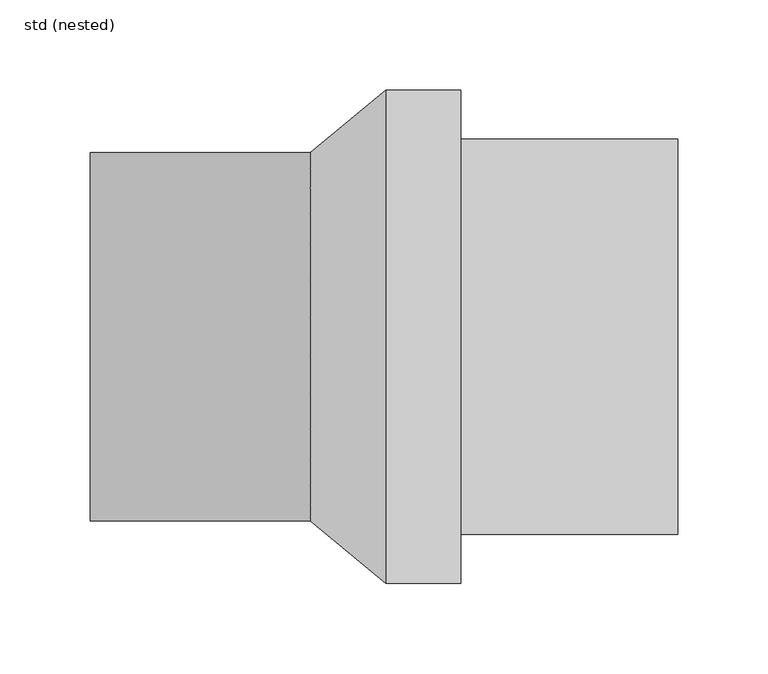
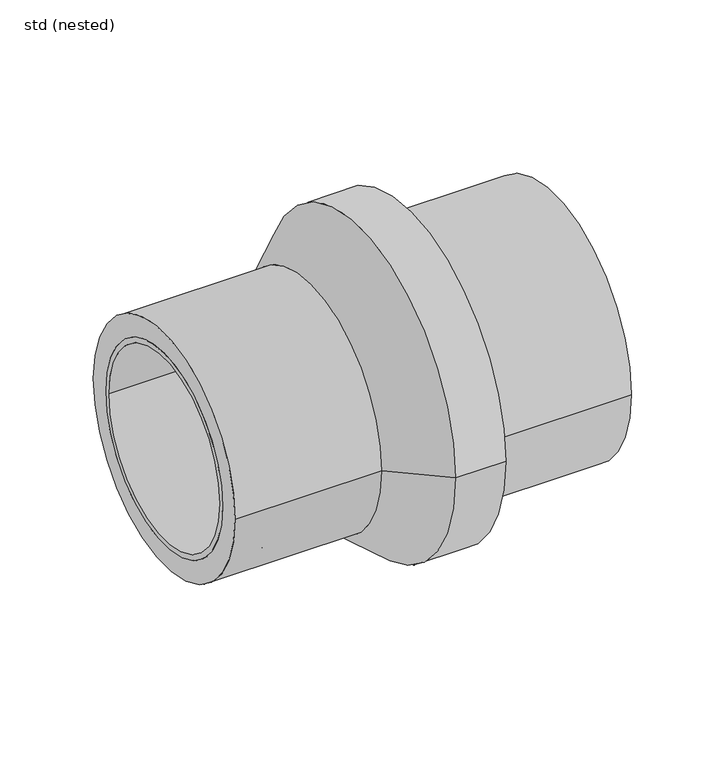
"""IFC4 building model written with IfcOpenShell, lengths in millimetres: pipe fitting geometry, ZZZ_do not use_PIF_ST_WPB_GM-X compound pipe reducer_ACO : std (nested)."""

from ifc_helpers import new_model, si_unit, point, frame, origin, origin_2d, place, context, project, spatial, polyline, circle_curve, trimmed, segment, composite_curve, outline, extrude, source, transform, mapped, element, save
from ifc_brep_helpers import plane_surface, cylinder_surface, revolved_surface, advanced_brep


def std_nested_7e47c5b0(model_context):
    return source(origin(), model_context, "Body", "SolidModel", [
        advanced_brep(
        [(-315.5, 90.5, 0.0), (-280.0, 90.5, 0.0), (-280.0, -90.5, 0.0), (-315.5, -90.5, 0.0), (-325.0, -84.0, 0.0), (-325.0, 84.0, 0.0), (-325.0, 79.5, 0.0), (-325.0, -79.5, 0.0), (-245.0, -84.0, 0.0), (-245.0, 84.0, 0.0), (-245.0, -79.5, 0.0), (-245.0, 79.5, 0.0), (-280.0, -84.0, 0.0), (-280.0, 84.0, 0.0), (-315.5, 84.0, 0.0), (-315.5, -84.0, 0.0)],
        [
            (0, 1),
            (1, 2, circle_curve(frame((-280.0, 0.0, 0.0), z_axis=(-1.0, 0.0, 0.0), x_axis=(0.0, 1.0, 0.0)), 90.5)),
            (2, 3),
            (3, 0, circle_curve(frame((-315.5, 0.0, 0.0), z_axis=(1.0, 0.0, 0.0), x_axis=(0.0, 1.0, 0.0)), 90.5)),
            (2, 1, circle_curve(frame((-280.0, 0.0, 0.0), z_axis=(-1.0, 0.0, 0.0), x_axis=(0.0, 1.0, 0.0)), 90.5)),
            (0, 3, circle_curve(frame((-315.5, 0.0, 0.0), z_axis=(1.0, 0.0, 0.0), x_axis=(0.0, 1.0, 0.0)), 90.5)),
            (4, 5, circle_curve(frame((-325.0, 0.0, 0.0), z_axis=(-1.0, 0.0, 0.0), x_axis=(0.0, 1.0, 0.0)), 84.0)),
            (5, 4, circle_curve(frame((-325.0, 0.0, 0.0), z_axis=(-1.0, 0.0, 0.0), x_axis=(0.0, 1.0, 0.0)), 84.0)),
            (6, 7, circle_curve(frame((-325.0, 0.0, 0.0), z_axis=(1.0, 0.0, 0.0), x_axis=(0.0, 1.0, 0.0)), 79.5)),
            (7, 6, circle_curve(frame((-325.0, 0.0, 0.0), z_axis=(1.0, 0.0, 0.0), x_axis=(0.0, 1.0, 0.0)), 79.5)),
            (8, 9, circle_curve(frame((-245.0, 0.0, 0.0), z_axis=(1.0, 0.0, 0.0), x_axis=(0.0, 1.0, 0.0)), 84.0)),
            (9, 8, circle_curve(frame((-245.0, 0.0, 0.0), z_axis=(1.0, 0.0, 0.0), x_axis=(0.0, 1.0, 0.0)), 84.0)),
            (10, 11, circle_curve(frame((-245.0, 0.0, 0.0), z_axis=(-1.0, 0.0, 0.0), x_axis=(0.0, 1.0, 0.0)), 79.5)),
            (11, 10, circle_curve(frame((-245.0, 0.0, 0.0), z_axis=(-1.0, 0.0, 0.0), x_axis=(0.0, 1.0, 0.0)), 79.5)),
            (8, 12),
            (12, 13, circle_curve(frame((-280.0, 0.0, 0.0), z_axis=(1.0, 0.0, 0.0), x_axis=(0.0, 1.0, 0.0)), 84.0)),
            (13, 9),
            (5, 14),
            (14, 15, circle_curve(frame((-315.5, 0.0, 0.0), z_axis=(-1.0, 0.0, 0.0), x_axis=(0.0, 1.0, 0.0)), 84.0)),
            (15, 4),
            (15, 14, circle_curve(frame((-315.5, 0.0, 0.0), z_axis=(-1.0, 0.0, 0.0), x_axis=(0.0, 1.0, 0.0)), 84.0)),
            (13, 12, circle_curve(frame((-280.0, 0.0, 0.0), z_axis=(1.0, 0.0, 0.0), x_axis=(0.0, 1.0, 0.0)), 84.0)),
            (7, 10),
            (11, 6),
        ],
        [
            cylinder_surface(frame((-280.0, 0.0, 0.0), z_axis=(-1.0, 0.0, 0.0), x_axis=(0.0, 1.0, 0.0)), 90.5),
            plane_surface(frame((-325.0, 84.0, 0.0), z_axis=(-1.0, 0.0, 0.0), x_axis=(0.0, 0.0, 1.0))),
            plane_surface(frame((-245.0, 84.0, 0.0), z_axis=(1.0, 0.0, 0.0), x_axis=(0.0, 0.0, -1.0))),
            cylinder_surface(frame((-245.0, 0.0, 0.0), z_axis=(-1.0, 0.0, 0.0), x_axis=(0.0, 1.0, 0.0)), 84.0),
            revolved_surface(polyline([(-325.0, 79.5, 0.0), (-245.0, 79.5, 0.0)]), (-245.0, 0.0, 0.0), (-1.0, 0.0, 0.0)),
            plane_surface(frame((-315.5, 90.5, 0.0), z_axis=(-1.0, 0.0, 0.0), x_axis=(0.0, 0.0, 1.0))),
            plane_surface(frame((-280.0, 90.5, 0.0), z_axis=(1.0, 0.0, 0.0), x_axis=(0.0, 0.0, -1.0))),
        ],
        [
            (0, [[1, 2, 3, 4]]),
            (0, [[-3, 5, -1, 6]]),
            (1, [[7, 8], [9, 10]]),
            (2, [[11, 12], [13, 14]]),
            (3, [[15, 16, 17, -11]]),
            (3, [[18, 19, 20, -8]]),
            (3, [[-20, 21, -18, -7]]),
            (3, [[-17, 22, -15, -12]]),
            (4, [[-10, 23, -14, 24]]),
            (4, [[-13, -23, -9, -24]]),
            (5, [[-6, -4], [-21, -19]]),
            (6, [[-2, -5], [-22, -16]]),
        ],
    ),
        advanced_brep(
        [(-325.0, 102.0, 0.0), (-325.0, -102.0, 0.0), (-325.0, -84.0, 0.0), (-325.0, 84.0, 0.0), (-203.3333333, -102.0, 0.0), (-203.3333333, 102.0, 0.0), (-245.0, 84.0, 0.0), (-245.0, -84.0, 0.0), (-161.6666667, 136.5, 0.0), (-161.6666667, -136.5, 0.0), (-120.0, -136.5, 0.0), (-120.0, 136.5, 0.0)],
        [
            (0, 1, circle_curve(frame((-325.0, 0.0, 0.0), z_axis=(-1.0, 0.0, 0.0), x_axis=(0.0, -1.0, 0.0)), 102.0)),
            (1, 0, circle_curve(frame((-325.0, 0.0, 0.0), z_axis=(-1.0, 0.0, 0.0), x_axis=(0.0, -1.0, 0.0)), 102.0)),
            (2, 3, circle_curve(frame((-325.0, 0.0, 0.0), z_axis=(1.0, 0.0, 0.0), x_axis=(0.0, -1.0, 0.0)), 84.0)),
            (3, 2, circle_curve(frame((-325.0, 0.0, 0.0), z_axis=(1.0, 0.0, 0.0), x_axis=(0.0, -1.0, 0.0)), 84.0)),
            (1, 4),
            (4, 5, circle_curve(frame((-203.3333333, 0.0, 0.0), z_axis=(-1.0, 0.0, 0.0), x_axis=(0.0, -1.0, 0.0)), 102.0)),
            (5, 0),
            (5, 4, circle_curve(frame((-203.3333333, 0.0, 0.0), z_axis=(-1.0, 0.0, 0.0), x_axis=(0.0, -1.0, 0.0)), 102.0)),
            (6, 7, circle_curve(frame((-245.0, 0.0, 0.0), z_axis=(-1.0, 0.0, 0.0), x_axis=(0.0, -1.0, 0.0)), 84.0)),
            (7, 6, circle_curve(frame((-245.0, 0.0, 0.0), z_axis=(-1.0, 0.0, 0.0), x_axis=(0.0, -1.0, 0.0)), 84.0)),
            (7, 2),
            (3, 6),
            (5, 8),
            (8, 9, circle_curve(frame((-161.6666667, 0.0, 0.0), z_axis=(-1.0, 0.0, 0.0), x_axis=(0.0, 1.0, 0.0)), 136.5)),
            (9, 4),
            (9, 8, circle_curve(frame((-161.6666667, 0.0, 0.0), z_axis=(-1.0, 0.0, 0.0), x_axis=(0.0, -1.0, 0.0)), 136.5)),
            (10, 11, circle_curve(frame((-120.0, 0.0, 0.0), z_axis=(1.0, 0.0, 0.0), x_axis=(0.0, 1.0, 0.0)), 136.5)),
            (11, 10, circle_curve(frame((-120.0, 0.0, 0.0), z_axis=(1.0, 0.0, 0.0), x_axis=(0.0, 1.0, 0.0)), 136.5)),
            (11, 8),
            (9, 10),
        ],
        [
            plane_surface(frame((-325.0, -102.0, 0.0), z_axis=(-1.0, 0.0, 0.0), x_axis=(0.0, 0.0, -1.0))),
            cylinder_surface(frame((-203.3333333, 0.0, 0.0), z_axis=(-1.0, 0.0, 0.0), x_axis=(0.0, -1.0, 0.0)), 102.0),
            plane_surface(frame((-245.0, -84.0, 0.0), z_axis=(-1.0, 0.0, 0.0), x_axis=(0.0, 0.0, 1.0))),
            revolved_surface(polyline([(-325.0, -84.0, 0.0), (-245.0, -84.0, 0.0)]), (-245.0, 0.0, 0.0), (-1.0, 0.0, 0.0)),
            revolved_surface(polyline([(-203.3333333, 102.00000004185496, 0.0), (-161.6666667, 136.5, 0.0)]), (-326.5217391, 0.0, 0.0), (1.0, 0.0, 0.0)),
            revolved_surface(polyline([(-203.3333333, -102.00000004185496, 0.0), (-161.6666667, -136.5, 0.0)]), (-326.5217391, 0.0, 0.0), (1.0, 0.0, 0.0)),
            plane_surface(frame((-120.0, 136.5, 0.0), z_axis=(1.0, 0.0, 0.0), x_axis=(0.0, 0.0, -1.0))),
            cylinder_surface(frame((-161.6666667, 0.0, 0.0), z_axis=(1.0, 0.0, 0.0), x_axis=(0.0, 1.0, 0.0)), 136.5),
        ],
        [
            (0, [[1, 2], [3, 4]]),
            (1, [[5, 6, 7, -2]]),
            (1, [[-7, 8, -5, -1]]),
            (2, [[9, 10]]),
            (3, [[11, -4, 12, -10]]),
            (3, [[-12, -3, -11, -9]]),
            (4, [[-8, 13, 14, 15]]),
            (5, [[16, -13, -6, -15]]),
            (6, [[17, 18]]),
            (7, [[19, -16, 20, -18]]),
            (7, [[-20, -14, -19, -17]]),
        ],
    ),
        extrude(outline(composite_curve([segment(trimmed(circle_curve(origin_2d(), 109.5), [point((-109.5, 0.0))], [point((109.5, 0.0))], False, "CARTESIAN"), True, "CONTINUOUS"), segment(trimmed(circle_curve(origin_2d(), 109.5), [point((109.5, 0.0))], [point((-109.5, 0.0))], False, "CARTESIAN"), True, "CONTINUOUS")], self_intersect=False)), frame((-120.0, 0.0, 0.0), z_axis=(1.0, 0.0, 0.0), x_axis=(0.0, 1.0, 0.0)), (0.0, 0.0, 1.0), 120.0),
    ])


if __name__ == "__main__":
    model = new_model("IFC4")
    model_context = context("Model", 3, world=origin())
    ifc_project = project(units=[si_unit("LENGTHUNIT", "METRE", prefix="MILLI")], contexts=[model_context])
    site = spatial("IfcSite", under=ifc_project)
    building = spatial("IfcBuilding", under=site)
    placement = place(None, origin())
    std_nested_shape = std_nested_7e47c5b0(model_context)
    element("IfcPipeFitting", 1, ObjectType="ZZZ_do not use_PIF_ST_WPB_GM-X compound pipe reducer_ACO : std (nested)", at=placement, inside=building, context=model_context, shape_type="MappedRepresentation", body=[
        mapped(std_nested_shape, transform((0.0, 0.0, 0.0), x_axis=(1.0, 0.0, 0.0), y_axis=(0.0, 1.0, 0.0), z_axis=(0.0, 0.0, 1.0))),
    ])
    save(model, "model.ifc")
